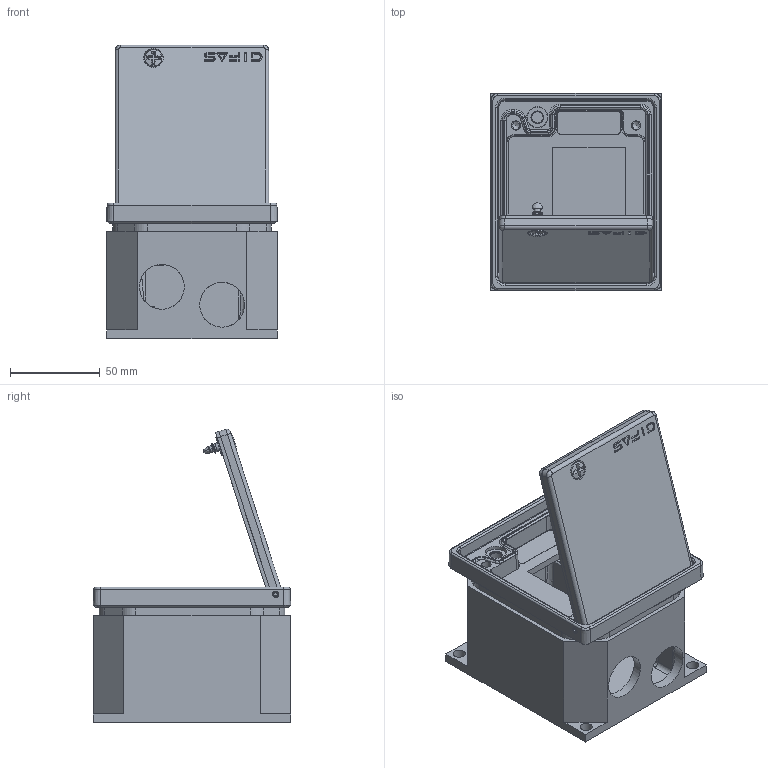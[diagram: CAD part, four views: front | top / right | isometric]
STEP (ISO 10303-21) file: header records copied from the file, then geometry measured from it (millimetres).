
FILE_DESCRIPTION(/* description */ (''),/* implementation_level */ '2;1');
FILE_NAME(/* name */ 'Fonto 2000_Open.stp',/* time_stamp */ '2023-10-25T11:46:44+02:00',/* author */ ('stangass'),/* organization */ (''),/* preprocessor_version */ 'ST-DEVELOPER v19.2',/* originating_system */ 'Autodesk Inventor 2023',/* authorisation */ '');
FILE_SCHEMA (('AUTOMOTIVE_DESIGN { 1 0 10303 214 3 1 1 }'));
Products named in the file (19): 2040268_3DINV; 2039966_3DINV; 2039967_3DINV; 2040286_3DINV; 2040279_3DINV; 2040276_3DINV; 2040277_3DINV; ISO 8752 - 3 x 16; 2040229_3DINV; 2039968_3DINV; 2040117_3DINV; 2040270_3DINV; DIN 912 - M5 x 25; DIN 6799 - 5; DIN 912 - M5 x 8; #61310; DIN 127 - A 5; DIN 125 - A 5,3; 2040278_3DINV
Assembly tree (32 placements, depth 2):
  2040268_3DINV
    2039966_3DINV
    2039967_3DINV
    2040286_3DINV
    2040279_3DINV
    2040276_3DINV
    2040277_3DINV
    ISO 8752 - 3 x 16  x2
    2040229_3DINV
    2039968_3DINV
    2040117_3DINV
    2040270_3DINV
    DIN 912 - M5 x 8  x4
    DIN 912 - M5 x 25  x4
    DIN 6799 - 5  x4
    #61310  x3
    DIN 127 - A 5  x2
    DIN 125 - A 5,3  x2
    2040278_3DINV
Bounding box: 95 x 110 x 163.53 mm (x, y, z)
Volume: 298642.9 mm3; surface area: 151514.4 mm2
Topology: 32 solids, 32 shells, 1539 faces, 3862 edges, 2416 vertices
Faces by surface type: plane 742, cylinder 440, bspline 193, cone 98, torus 61, sphere 5
Full cylindrical faces by diameter (mm): 2.5 x8, 3 x2, 3.5 x2, 3.683 x3, 3.708 x3, 4.17 x6, 4.2 x8, 4.372 x1, 4.521 x3, 4.629 x1, 5 x10, 5.156 x1, 5.2 x4, 5.207 x3, 5.3 x2, 6.35 x1, 6.5 x2, 6.8 x4, 8.5 x8, 9 x4, 9.525 x2, 10 x2, 10.414 x1, 11 x1, 11.8 x1, 11.811 x1, 25 x2
Entity records: 61186 total; most frequent: CARTESIAN_POINT 28886, ORIENTED_EDGE 6474, DIRECTION 6334, EDGE_CURVE 3237, AXIS2_PLACEMENT_3D 2288, VERTEX_POINT 2030, LINE 1758, VECTOR 1758
